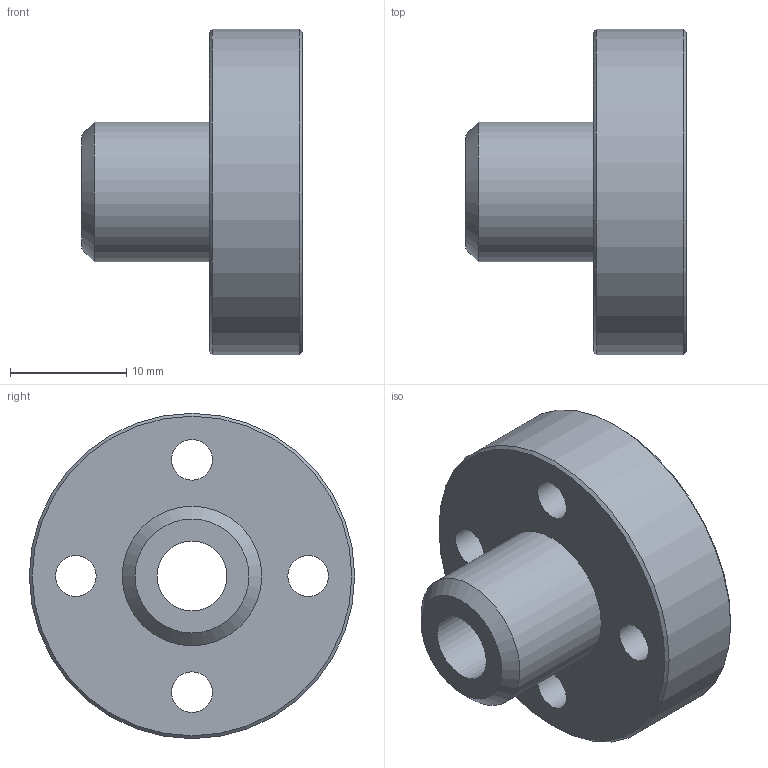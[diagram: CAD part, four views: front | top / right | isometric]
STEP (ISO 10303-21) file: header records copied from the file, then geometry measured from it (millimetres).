
FILE_DESCRIPTION(('STEP AP203'),'1');
FILE_NAME('//192.168.1.1/share/s-4 技術開発/s-4-4_CAD/s-4-4-3_見直し済み/PBC LINEAR修正済み/3D途中/SFPJ/SFPJR/SFPJR06.step','2022-03-24T06:34:41',(' '),(' '),'Spatial InterOp 3D',' ',' ');
FILE_SCHEMA(('CONFIG_CONTROL_DESIGN'));
Length unit declared in the file: millimetre
Products named in the file (1): 1
Bounding box: 19 x 28 x 28 mm (x, y, z)
Volume: 5066.6 mm3; surface area: 2971.6 mm2
Topology: 1 solids, 1 shells, 21 faces, 43 edges, 29 vertices
Faces by surface type: cylinder 11, plane 7, cone 3
Full cylindrical faces by diameter (mm): 3.5 x4, 6 x5, 12 x1, 28 x1
Entity records: 528 total; most frequent: DIRECTION 94, CARTESIAN_POINT 72, EDGE_LOOP 50, ORIENTED_EDGE 50, AXIS2_PLACEMENT_3D 47, FACE_OUTER_BOUND 32, EDGE_CURVE 25, VERTEX_POINT 25
